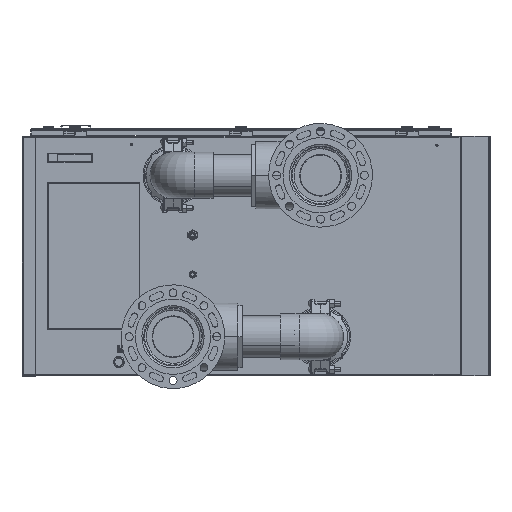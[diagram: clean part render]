
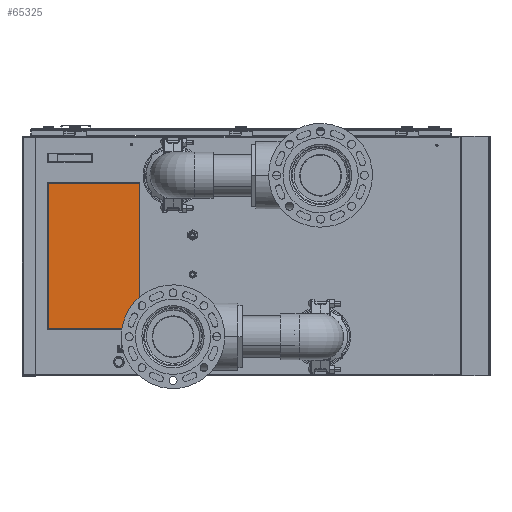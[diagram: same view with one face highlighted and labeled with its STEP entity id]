
A CAD part, left-side view. The second image highlights one B-rep face of the part: STEP entity #65325.
In plain terms, the highlighted planar face has unit normal (-1, 0, 0).
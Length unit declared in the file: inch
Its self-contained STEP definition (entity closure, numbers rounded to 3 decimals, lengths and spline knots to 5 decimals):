
#6168 = VECTOR ( 'NONE', #166941, 39.37008 ) ;
#8579 = CARTESIAN_POINT ( 'NONE',  ( -2.531, 39.75, 13. ) ) ;
#19203 = VERTEX_POINT ( 'NONE', #186432 ) ;
#20522 = ORIENTED_EDGE ( 'NONE', *, *, #57723, .T. ) ;
#23611 = DIRECTION ( 'NONE',  ( 0., 0., 1. ) ) ;
#27396 = VERTEX_POINT ( 'NONE', #184052 ) ;
#28222 = FACE_OUTER_BOUND ( 'NONE', #139878, .T. ) ;
#30412 = EDGE_CURVE ( 'NONE', #27396, #160523, #180509, .T. ) ;
#34590 = AXIS2_PLACEMENT_3D ( 'NONE', #8579, #113204, #23611 ) ;
#46046 = LINE ( 'NONE', #77394, #6168 ) ;
#53969 = VECTOR ( 'NONE', #147407, 39.37008 ) ;
#56369 = CARTESIAN_POINT ( 'NONE',  ( -2.531, 34.75, 5. ) ) ;
#57723 = EDGE_CURVE ( 'NONE', #160523, #19203, #46046, .T. ) ;
#65325 = ADVANCED_FACE ( 'NONE', ( #28222 ), #127605, .T. ) ;
#77394 = CARTESIAN_POINT ( 'NONE',  ( -2.531, 44.65966, 5.1255 ) ) ;
#94627 = CARTESIAN_POINT ( 'NONE',  ( -2.531, 44.6245, 20.90966 ) ) ;
#99524 = VERTEX_POINT ( 'NONE', #166160 ) ;
#113204 = DIRECTION ( 'NONE',  ( -1., 0., 0. ) ) ;
#122873 = VECTOR ( 'NONE', #145814, 39.37008 ) ;
#127605 = PLANE ( 'NONE',  #34590 ) ;
#128668 = LINE ( 'NONE', #132345, #53969 ) ;
#132345 = CARTESIAN_POINT ( 'NONE',  ( -2.531, 34.75, 20.8745 ) ) ;
#139878 = EDGE_LOOP ( 'NONE', ( #153429, #20522, #181896, #151483 ) ) ;
#140682 = VECTOR ( 'NONE', #189998, 39.37008 ) ;
#145814 = DIRECTION ( 'NONE',  ( 0., 0., 1. ) ) ;
#147407 = DIRECTION ( 'NONE',  ( 0., 1., 0. ) ) ;
#147993 = EDGE_CURVE ( 'NONE', #19203, #99524, #162753, .T. ) ;
#151483 = ORIENTED_EDGE ( 'NONE', *, *, #171713, .T. ) ;
#153429 = ORIENTED_EDGE ( 'NONE', *, *, #30412, .T. ) ;
#160523 = VERTEX_POINT ( 'NONE', #173694 ) ;
#162753 = LINE ( 'NONE', #56369, #122873 ) ;
#166160 = CARTESIAN_POINT ( 'NONE',  ( -2.531, 34.75, 20.8745 ) ) ;
#166941 = DIRECTION ( 'NONE',  ( 0., -1., 0. ) ) ;
#171713 = EDGE_CURVE ( 'NONE', #99524, #27396, #128668, .T. ) ;
#173694 = CARTESIAN_POINT ( 'NONE',  ( -2.531, 44.6245, 5.1255 ) ) ;
#180509 = LINE ( 'NONE', #94627, #140682 ) ;
#181896 = ORIENTED_EDGE ( 'NONE', *, *, #147993, .T. ) ;
#184052 = CARTESIAN_POINT ( 'NONE',  ( -2.531, 44.6245, 20.8745 ) ) ;
#186432 = CARTESIAN_POINT ( 'NONE',  ( -2.531, 34.75, 5.1255 ) ) ;
#189998 = DIRECTION ( 'NONE',  ( 0., 0., -1. ) ) ;
